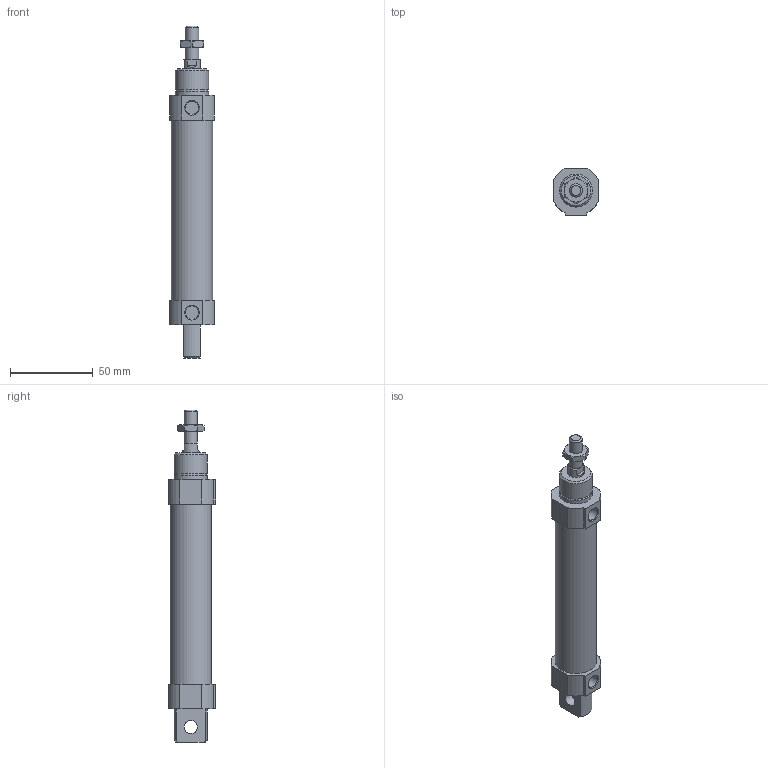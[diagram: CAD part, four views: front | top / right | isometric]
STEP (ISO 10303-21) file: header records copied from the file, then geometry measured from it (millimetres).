
FILE_DESCRIPTION((''),'2;1');
FILE_NAME('I:\3D電子目錄\氣缸\FDA\FDA\FDA\FDA20\FDA20x75.stp','2007-10-16T09:50:46',('66-2f-008'),(''),'Autodesk Inventor 11','Autodesk Inventor 11','');
FILE_SCHEMA(('AUTOMOTIVE_DESIGN { 1 0 10303 214 1 1 1 1 }'));
Length unit declared in the file: millimetre
Products named in the file (1): FDA20
Bounding box: 27 x 28.5 x 201 mm (x, y, z)
Volume: 83087 mm3; surface area: 16749.2 mm2
Topology: 1 solids, 1 shells, 77 faces, 178 edges, 112 vertices
Faces by surface type: plane 37, cone 20, cylinder 19, torus 1
Full cylindrical faces by diameter (mm): 8 x5, 10 x1, 20 x2, 25 x1
Entity records: 2081 total; most frequent: CARTESIAN_POINT 414, DIRECTION 348, ORIENTED_EDGE 324, EDGE_CURVE 162, AXIS2_PLACEMENT_3D 140, VERTEX_POINT 110, EDGE_LOOP 102, FACE_OUTER_BOUND 77
